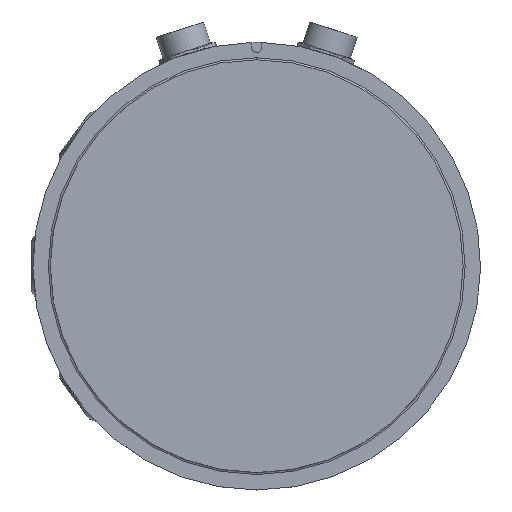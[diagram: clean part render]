
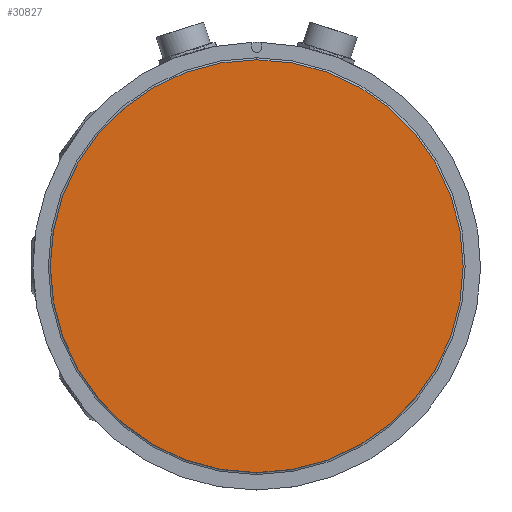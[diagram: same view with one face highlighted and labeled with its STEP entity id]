
A CAD part, left-side view. The second image highlights one B-rep face of the part: STEP entity #30827.
In plain terms, the highlighted planar face has unit normal (-1, 0, 0).
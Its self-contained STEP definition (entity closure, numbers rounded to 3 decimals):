
#566 = DIRECTION ( 'NONE',  ( 0., 0., -1. ) ) ;
#1532 = CARTESIAN_POINT ( 'NONE',  ( 750.9, -117.9, 1053.5 ) ) ;
#2623 = PLANE ( 'NONE',  #4804 ) ;
#2687 = DIRECTION ( 'NONE',  ( 0., 0., -1. ) ) ;
#3468 = CIRCLE ( 'NONE', #24674, 41.5 ) ;
#4804 = AXIS2_PLACEMENT_3D ( 'NONE', #24817, #12488, #566 ) ;
#5475 = FACE_OUTER_BOUND ( 'NONE', #18025, .T. ) ;
#5850 = EDGE_CURVE ( 'NONE', #9281, #11990, #3468, .T. ) ;
#9281 = VERTEX_POINT ( 'NONE', #1532 ) ;
#10307 = DIRECTION ( 'NONE',  ( 1., 0., 0. ) ) ;
#10772 = EDGE_CURVE ( 'NONE', #11990, #9281, #30329, .T. ) ;
#11990 = VERTEX_POINT ( 'NONE', #15866 ) ;
#12488 = DIRECTION ( 'NONE',  ( -1., 0., 0. ) ) ;
#15064 = CARTESIAN_POINT ( 'NONE',  ( 750.9, -117.9, 1095. ) ) ;
#15230 = DIRECTION ( 'NONE',  ( 1., 0., 0. ) ) ;
#15866 = CARTESIAN_POINT ( 'NONE',  ( 750.9, -117.9, 1136.5 ) ) ;
#16623 = ORIENTED_EDGE ( 'NONE', *, *, #5850, .F. ) ;
#18025 = EDGE_LOOP ( 'NONE', ( #16623, #20778 ) ) ;
#19970 = DIRECTION ( 'NONE',  ( 0., 0., -1. ) ) ;
#20778 = ORIENTED_EDGE ( 'NONE', *, *, #10772, .F. ) ;
#24674 = AXIS2_PLACEMENT_3D ( 'NONE', #29487, #15230, #19970 ) ;
#24817 = CARTESIAN_POINT ( 'NONE',  ( 750.9, -117.9, 1095. ) ) ;
#29487 = CARTESIAN_POINT ( 'NONE',  ( 750.9, -117.9, 1095. ) ) ;
#30329 = CIRCLE ( 'NONE', #30834, 41.5 ) ;
#30827 = ADVANCED_FACE ( 'NONE', ( #5475 ), #2623, .T. ) ;
#30834 = AXIS2_PLACEMENT_3D ( 'NONE', #15064, #10307, #2687 ) ;
